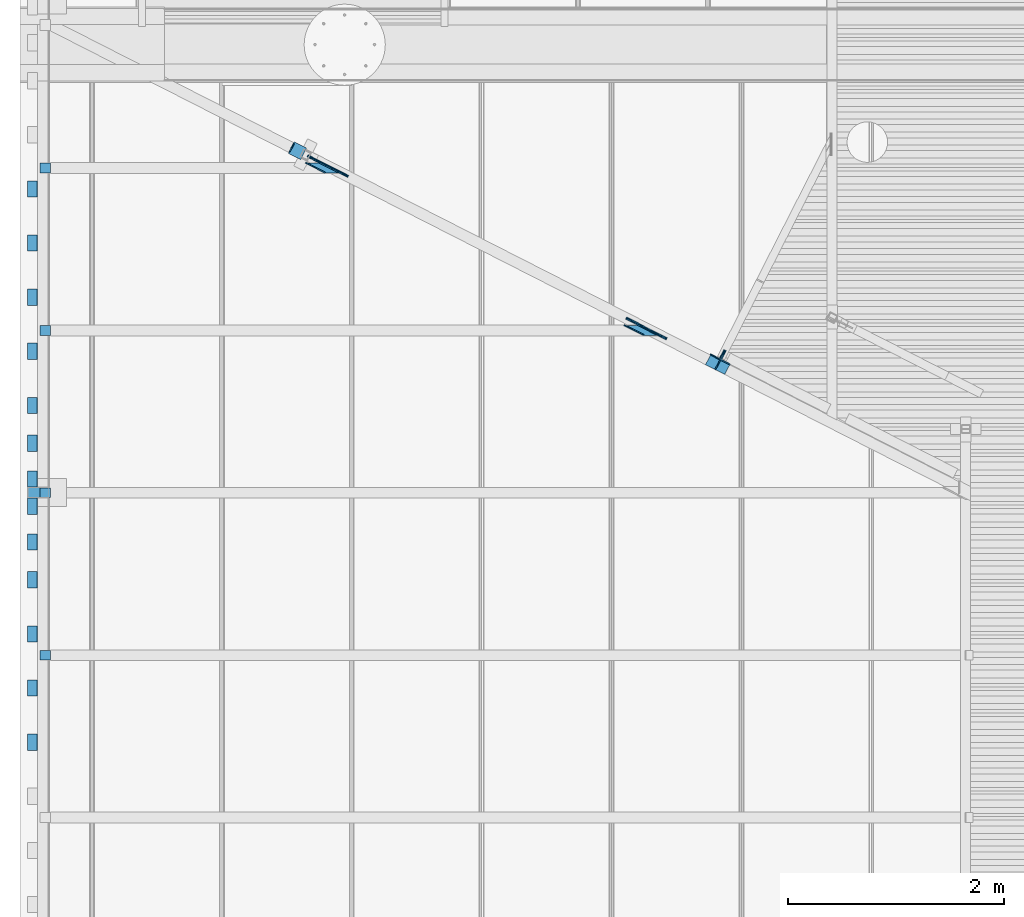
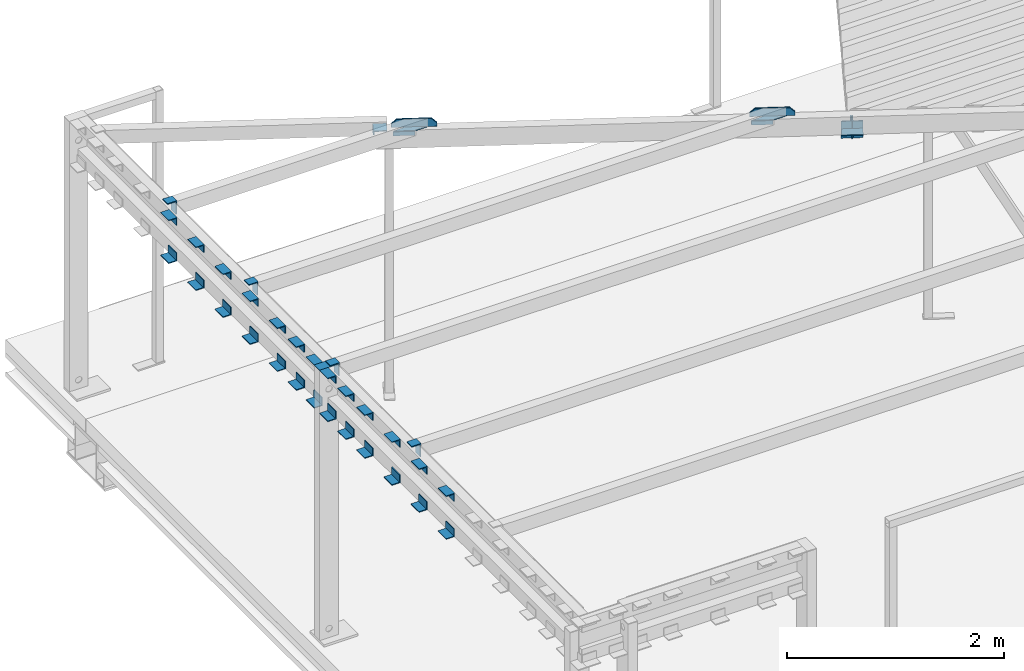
# One storey, part 17 of 30: 45 beams.
"""IFC2X3 building model written with IfcOpenShell, lengths in millimetres."""

from ifc_helpers import new_model, entity, si_unit, converted_unit, derived_unit, direction, frame, origin_with_axes, place, context, subcontext, project, spatial, faceted_brep, material, type_object, element, save


model = new_model("IFC2X3")

# Units and contexts
model_context = context("Model", 3, precision=0.01, world=frame((0.0, 4.29681676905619e-09, 0.0)), true_north=direction((4.01073788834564e-13, 1.0)))
plan_context = context("Plan", 3, precision=0.01, world=frame((0.0, 4.29681676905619e-09, 0.0)), true_north=direction((4.01073788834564e-13, 1.0)))
body_context = subcontext(model_context, "Body", "Model", "MODEL_VIEW")
ifc_project = project(units=[converted_unit("PLANEANGLEUNIT", "DEGREE", entity("IfcPositiveLengthMeasure", 0.0174532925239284), si_unit("PLANEANGLEUNIT", "RADIAN"), dimensions=[0, 0, 0, 0, 0, 0, 0]), si_unit("AREAUNIT", "SQUARE_METRE"), si_unit("LENGTHUNIT", "METRE", prefix="MILLI"), si_unit("MASSUNIT", "GRAM", prefix="KILO"), si_unit("POWERUNIT", "WATT"), si_unit("PRESSUREUNIT", "PASCAL"), si_unit("FORCEUNIT", "NEWTON", prefix="KILO"), si_unit("ELECTRICVOLTAGEUNIT", "VOLT"), si_unit("ELECTRICCURRENTUNIT", "AMPERE"), si_unit("THERMODYNAMICTEMPERATUREUNIT", "DEGREE_CELSIUS"), si_unit("TIMEUNIT", "SECOND"), si_unit("VOLUMEUNIT", "CUBIC_METRE"), derived_unit("LINEARVELOCITYUNIT", [(si_unit("LENGTHUNIT", "METRE"), 1), (si_unit("TIMEUNIT", "SECOND"), -1)]), derived_unit("VOLUMETRICFLOWRATEUNIT", [(si_unit("VOLUMEUNIT", "CUBIC_METRE"), 1), (si_unit("TIMEUNIT", "SECOND"), -1)]), derived_unit("THERMALTRANSMITTANCEUNIT", [(si_unit("POWERUNIT", "WATT"), 1), (si_unit("THERMODYNAMICTEMPERATUREUNIT", "KELVIN"), -1), (si_unit("AREAUNIT", "SQUARE_METRE"), -1)]), derived_unit("SOUNDPRESSUREUNIT", [(si_unit("PRESSUREUNIT", "PASCAL"), 1)])], contexts=[model_context, plan_context])

# Site, building, storey
site_placement = place(None, frame((0.0, -4.29681676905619e-09, 0.0), z_axis=(0.0, 0.0, 1.0), x_axis=(1.0, 0.0, 0.0)))
site = spatial("IfcSite", under=ifc_project, at=site_placement, Name="Gardermoen", CompositionType="ELEMENT")
building_placement = place(site_placement, frame((0.0, 4.29681676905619e-09, 0.0), z_axis=(0.0, 0.0, 1.0), x_axis=(1.0, 0.0, 0.0)))
building = spatial("IfcBuilding", under=site, at=building_placement, Name="TI", CompositionType="ELEMENT")
storey_placement = place(building_placement, origin_with_axes())
storey = spatial("IfcBuildingStorey", under=building, at=storey_placement, Name="F", CompositionType="ELEMENT", Elevation=0.0)

# Beams
ifc_material_1 = material(Name="STEEL/S355")
beam_type_1 = type_object("IfcBeamType", Name="PL8*100", PredefinedType="NOTDEFINED")
beam_1_placement = place(storey_placement, frame((598269.997607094, 693912.002606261, 213891.000686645), z_axis=(-5.80000057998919e-08, -0.999999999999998, 0.0), x_axis=(-0.999999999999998, 5.80000057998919e-08, 0.0)))
element("IfcBeam", 1, at=beam_1_placement, inside=storey, type_object=beam_type_1, material=ifc_material_1, Name="STÅLBJELKE", ObjectType="PL8*100", context=body_context, shape_type="Brep", body=[
    faceted_brep([(-5.82076609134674e-11, -3.99999999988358, 0.0), (3.95812094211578e-09, -3.99999999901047, 100.000000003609), (4.30736690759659e-09, 4.00000000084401, 100.000000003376), (-5.82076609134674e-11, 4.00000000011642, -5.82076609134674e-11), (199.999999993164, -4.0, 99.9999999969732), (199.999999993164, 4.0, 99.9999999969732), (200.0, -4.0, -1.97906047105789e-09), (200.0, 4.00000000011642, -1.62981450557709e-09)], [[[0, 1, 2, 3]], [[1, 4, 5, 2]], [[4, 6, 7, 5]], [[6, 0, 3, 7]], [[5, 7, 3, 2]], [[6, 4, 1, 0]]]),
])
beam_type_2 = type_object("IfcBeamType", Name="PL10*120", PredefinedType="NOTDEFINED")
beam_2_placement = place(storey_placement, frame((600525.795877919, 697089.294883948, 213804.999645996), z_axis=(0.891022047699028, -0.453960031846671, 0.0), x_axis=(-0.453960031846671, -0.891022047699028, 0.0)))
element("IfcBeam", 2, at=beam_2_placement, inside=storey, type_object=beam_type_2, material=ifc_material_1, Name="STÅLBJELKE", ObjectType="PL10*120", context=body_context, shape_type="Brep", body=[
    faceted_brep([(0.0, -5.0, 0.0), (-16.2980422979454, -5.0, 0.00264510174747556), (-16.2980422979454, 5.0, 0.00264510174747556), (0.0, 5.0, 0.0), (-16.2918949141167, -5.0, 128.615921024), (-16.2918949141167, 5.0, 128.615921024), (103.706039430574, -5.0, 128.611785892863), (103.706039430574, 5.0, 128.611785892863), (103.701271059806, -5.0, -3.95812094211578e-09), (103.701271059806, 5.0, -3.95812094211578e-09)], [[[0, 1, 2, 3]], [[1, 4, 5, 2]], [[4, 6, 7, 5]], [[6, 8, 9, 7]], [[8, 0, 3, 9]], [[5, 7, 9, 3, 2]], [[8, 6, 4, 1, 0]]]),
])
beam_type_3 = type_object("IfcBeamType", Name="L100*10", PredefinedType="NOTDEFINED")
beam_3_placement = place(storey_placement, frame((604355.897931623, 695088.582401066, 213549.995250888), z_axis=(-0.453943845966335, -0.891030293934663, -1.63563523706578e-10), x_axis=(0.891030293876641, -0.453943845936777, 1.14119999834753e-05)))
element("IfcBeam", 3, at=beam_3_placement, inside=storey, type_object=beam_type_3, material=ifc_material_1, Name="STÅLBJELKE", ObjectType="L100*10", context=body_context, shape_type="Brep", body=[
    faceted_brep([(0.0, 50.0, -50.0), (0.0, 50.0, 50.0), (200.000000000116, 50.0, 50.0), (200.000000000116, 50.0, -50.0), (-9.31322574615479e-10, 40.0000000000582, 50.0000000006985), (200.000000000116, 40.0, 50.0), (0.0, 40.0, -40.0), (200.000000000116, 40.0, -40.0), (9.89530235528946e-10, -50.0000000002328, -40.0000000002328), (200.000000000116, -50.0, -40.0), (0.0, -50.0, -50.0), (200.000000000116, -50.0, -50.0)], [[[0, 1, 2, 3]], [[1, 4, 5, 2]], [[4, 6, 7, 5]], [[6, 8, 9, 7]], [[8, 10, 11, 9]], [[10, 0, 3, 11]], [[5, 7, 9, 11, 3, 2]], [[10, 8, 6, 4, 1, 0]]]),
])
beam_4_placement = place(storey_placement, frame((604443.707537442, 695156.079949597, 213499.997528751), z_axis=(0.453943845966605, 0.891030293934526, 0.0), x_axis=(0.0, 0.0, 1.0)))
element("IfcBeam", 4, at=beam_4_placement, inside=storey, type_object=beam_type_3, material=ifc_material_1, Name="STÅLBJELKE", ObjectType="L100*10", context=body_context, shape_type="Brep", body=[
    faceted_brep([(76.9011411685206, 39.9999999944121, -39.9999999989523), (76.9011415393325, 49.9999999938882, -40.0000255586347), (0.0, 50.0, -40.0), (0.0, 40.0, -40.0), (76.9011411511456, 39.9999999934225, 49.9999744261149), (76.9011415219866, 49.9999999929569, 49.9999999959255), (183.102282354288, 39.9999999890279, -40.000000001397), (183.102282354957, 39.9999999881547, 49.9999999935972), (76.9011378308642, -50.0000000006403, -40.0), (9.89530235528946e-10, -50.0000000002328, -40.0000000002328), (0.0, -50.0, -50.0), (183.102282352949, -50.0000000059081, -50.0000000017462), (183.102282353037, -50.0000000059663, -40.0000000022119), (0.0, 50.0, -50.0), (183.102282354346, 49.9999999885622, -50.0000000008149), (183.102282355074, 49.9999999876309, 49.9999999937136)], [[[0, 1, 2, 3]], [[4, 5, 1, 0]], [[6, 7, 4, 0]], [[8, 9, 10, 11, 12]], [[10, 13, 14, 11]], [[7, 6, 12, 11, 14, 15]], [[0, 3, 9, 8, 12, 6]], [[13, 10, 9, 3, 2]], [[15, 14, 13, 2, 1, 5]], [[7, 15, 5, 4]]]),
])
beam_5_placement = place(storey_placement, frame((604537.087509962, 695108.506607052, 213683.099811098), z_axis=(0.453943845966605, 0.891030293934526, 0.0), x_axis=(0.0, 0.0, -1.0)))
element("IfcBeam", 5, at=beam_5_placement, inside=storey, type_object=beam_type_3, material=ifc_material_1, Name="STÅLBJELKE", ObjectType="L100*10", context=body_context, shape_type="Brep", body=[
    faceted_brep([(106.201141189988, 40.0000000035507, 49.9999999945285), (106.201141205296, 40.0000000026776, -40.0000000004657), (106.201140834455, 50.0000000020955, -40.0000000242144), (106.201140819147, 50.0000000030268, 49.9999999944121), (183.102282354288, 39.9999999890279, -40.000000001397), (183.102282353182, 50.0000000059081, -40.0000000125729), (0.0, -50.0, -50.0), (9.89530235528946e-10, -50.0000000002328, -40.0000000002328), (0.0, 40.0, -40.0), (-9.31322574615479e-10, 40.0000000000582, 50.0000000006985), (0.0, 50.0, 50.0), (0.0, 50.0, -50.0), (183.102282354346, 49.9999999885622, -50.0000000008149), (183.102282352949, -50.0000000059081, -50.0000000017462), (106.201144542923, -49.9999999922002, -39.9999999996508), (183.102282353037, -50.0000000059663, -40.0000000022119)], [[[0, 1, 2, 3]], [[4, 5, 2, 1]], [[6, 7, 8, 9, 10, 11]], [[6, 11, 12, 13]], [[14, 7, 6, 13, 15]], [[1, 8, 7, 14, 15, 4]], [[9, 8, 1, 0]], [[10, 9, 0, 3]], [[12, 11, 10, 3, 2, 5]], [[15, 13, 12, 5, 4]]]),
])
ifc_material_2 = material(Name="STEEL/S355J0")
beam_type_4 = type_object("IfcBeamType", Name="PL10*90", PredefinedType="NOTDEFINED")
beam_6_placement = place(storey_placement, frame((604463.156600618, 695078.833146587, 213499.995250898), z_axis=(-0.453943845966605, -0.891030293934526, -1.63567739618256e-10), x_axis=(-1.01680000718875e-05, 5.18000063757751e-06, 0.99999999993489)))
element("IfcBeam", 6, at=beam_6_placement, inside=storey, type_object=beam_type_4, material=ifc_material_2, Name="STÅLBJELKE", ObjectType="PL10*90", context=body_context, shape_type="Brep", body=[
    faceted_brep([(0.0, -5.0, 0.0), (2.91038304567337e-11, -5.00000000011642, 15.0), (2.91038304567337e-11, 5.0, 15.0), (0.0, 5.0, 0.0), (74.9999999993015, -5.00000000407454, 89.9999999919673), (74.9999999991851, 4.99999999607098, 89.9999999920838), (89.999999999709, -5.00000000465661, 89.9999999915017), (89.9999999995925, 4.99999999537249, 89.9999999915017), (90.0000000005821, -5.00000000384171, 11.9999999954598), (90.0000000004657, 4.9999999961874, 11.9999999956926), (89.591109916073, -5.00000000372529, 8.89417145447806), (89.5911099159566, 4.99999999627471, 8.89417145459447), (88.3923048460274, -5.00000000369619, 5.99999999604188), (88.392304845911, 4.99999999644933, 5.99999999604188), (86.4852813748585, -5.00000000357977, 3.51471862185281), (86.485281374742, 4.99999999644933, 3.51471862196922), (84.0000000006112, -5.00000000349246, 1.60769515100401), (84.0000000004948, 4.99999999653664, 1.60769515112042), (81.1058285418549, -5.00000000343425, 0.408890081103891), (81.1058285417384, 4.99999999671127, 0.408890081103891), (78.0000000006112, -5.00000000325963, -3.25962901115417e-09), (78.0000000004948, 4.99999999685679, -3.25962901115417e-09)], [[[0, 1, 2, 3]], [[1, 4, 5, 2]], [[4, 6, 7, 5]], [[6, 8, 9, 7]], [[8, 10, 11, 9]], [[10, 12, 13, 11]], [[12, 14, 15, 13]], [[14, 16, 17, 15]], [[16, 18, 19, 17]], [[18, 20, 21, 19]], [[20, 0, 3, 21]], [[5, 7, 9, 11, 13, 15, 17, 19, 21, 3, 2]], [[20, 18, 16, 14, 12, 10, 8, 6, 4, 1, 0]]]),
])
for number, where, z_axis, x_axis in (
    (7, (600639.584852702, 696903.702939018, 213804.999645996), (0.453993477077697, 0.891005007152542, 0.0), (0.891005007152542, -0.453993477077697, 0.0)),
    (8, (603583.504852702, 695403.702939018, 213804.999645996), (0.453993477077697, 0.891005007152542, 0.0), (0.891005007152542, -0.453993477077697, 0.0)),
):
    element("IfcBeam", number, at=place(storey_placement, frame(where, z_axis=z_axis, x_axis=x_axis)), inside=storey, type_object=beam_type_4, material=ifc_material_1, Name="STÅLBJELKE", ObjectType="PL10*90", context=body_context, shape_type="Brep", body=[
        faceted_brep([(0.0, -5.0, 0.0), (-0.587417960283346, -5.0, 1.15752243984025), (-0.587417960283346, 5.0, 1.15752243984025), (0.0, 5.0, 0.0), (114.900810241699, -5.0, 59.9968948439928), (114.900810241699, 5.0, 59.9968948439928), (313.128387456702, -5.0, 59.9925079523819), (313.128387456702, 5.0, 59.9925079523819), (195.38989258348, -5.0, 9.66247171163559e-09), (195.38989258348, 5.0, 9.66247171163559e-09)], [[[0, 1, 2, 3]], [[1, 4, 5, 2]], [[4, 6, 7, 5]], [[6, 8, 9, 7]], [[8, 0, 3, 9]], [[5, 7, 9, 3, 2]], [[8, 6, 4, 1, 0]]]),
    ])
beam_type_5 = type_object("IfcBeamType", Name="L90*9", PredefinedType="NOTDEFINED")
for number, where, z_axis, x_axis in (
    (9, (598114.998348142, 693331.002304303, 213449.999618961), (-0.999999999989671, -4.54499979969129e-06, 0.0), (-4.54499979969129e-06, 0.999999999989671, -1.52795109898e-11)),
    (10, (598114.998348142, 693331.002304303, 213849.999618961), (9.05696637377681e-17, -1.5279510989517e-11, -1.0), (-5.9275237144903e-06, 0.999999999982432, -1.52795109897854e-11)),
    (11, (598114.998348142, 692981.002304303, 213449.999618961), (-0.999999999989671, -4.54499979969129e-06, 0.0), (-4.54499979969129e-06, 0.999999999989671, -1.52795109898e-11)),
    (12, (598114.998348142, 692981.002304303, 213849.999618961), (9.05696637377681e-17, -1.5279510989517e-11, -1.0), (-5.9275237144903e-06, 0.999999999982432, -1.52795109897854e-11)),
    (13, (598114.998348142, 692481.002304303, 213449.999618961), (-0.999999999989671, -4.54499979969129e-06, 0.0), (-4.54499979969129e-06, 0.999999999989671, -1.52795109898e-11)),
    (14, (598114.998348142, 692481.002304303, 213849.999618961), (9.05696637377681e-17, -1.5279510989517e-11, -1.0), (-5.9275237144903e-06, 0.999999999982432, -1.52795109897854e-11)),
    (15, (598114.998348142, 691981.002304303, 213449.999618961), (-0.999999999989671, -4.54499979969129e-06, 0.0), (-4.54499979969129e-06, 0.999999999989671, -1.52795109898e-11)),
    (16, (598114.998348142, 691981.002304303, 213849.999618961), (9.05696637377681e-17, -1.5279510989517e-11, -1.0), (-5.9275237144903e-06, 0.999999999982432, -1.52795109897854e-11)),
    (17, (598114.998348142, 696593.002304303, 213449.999618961), (-0.999999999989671, -4.54499979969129e-06, 0.0), (-4.54499979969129e-06, 0.999999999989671, -1.52795109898e-11)),
    (18, (598114.998348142, 696593.002304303, 213849.999618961), (9.05696637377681e-17, -1.5279510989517e-11, -1.0), (-5.9275237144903e-06, 0.999999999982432, -1.52795109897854e-11)),
    (19, (598114.998348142, 694243.002304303, 213449.999618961), (-0.999999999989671, -4.54499979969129e-06, 0.0), (-4.54499979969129e-06, 0.999999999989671, -1.52795109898e-11)),
    (20, (598114.998348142, 694243.002304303, 213849.999618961), (9.05696637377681e-17, -1.5279510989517e-11, -1.0), (-5.9275237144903e-06, 0.999999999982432, -1.52795109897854e-11)),
    (21, (598114.998348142, 694593.002304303, 213449.999618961), (-0.999999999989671, -4.54499979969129e-06, 0.0), (-4.54499979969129e-06, 0.999999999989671, -1.52795109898e-11)),
    (22, (598114.998348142, 694593.002304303, 213849.999618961), (9.05696637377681e-17, -1.5279510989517e-11, -1.0), (-5.9275237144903e-06, 0.999999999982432, -1.52795109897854e-11)),
    (23, (598114.998348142, 695093.002304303, 213449.999618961), (-0.999999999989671, -4.54499979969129e-06, 0.0), (-4.54499979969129e-06, 0.999999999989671, -1.52795109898e-11)),
    (24, (598114.998348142, 695093.002304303, 213849.999618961), (9.05696637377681e-17, -1.5279510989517e-11, -1.0), (-5.9275237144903e-06, 0.999999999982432, -1.52795109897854e-11)),
    (25, (598114.998348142, 695593.002304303, 213449.999618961), (-0.999999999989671, -4.54499979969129e-06, 0.0), (-4.54499979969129e-06, 0.999999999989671, -1.52795109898e-11)),
    (26, (598114.998348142, 695593.002304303, 213849.999618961), (9.05696637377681e-17, -1.5279510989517e-11, -1.0), (-5.9275237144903e-06, 0.999999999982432, -1.52795109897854e-11)),
    (27, (598114.998348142, 696093.002304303, 213449.999618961), (-0.999999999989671, -4.54499979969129e-06, 0.0), (-4.54499979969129e-06, 0.999999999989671, -1.52795109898e-11)),
    (28, (598114.998348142, 696093.002304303, 213849.999618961), (9.05696637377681e-17, -1.5279510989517e-11, -1.0), (-5.9275237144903e-06, 0.999999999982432, -1.52795109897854e-11)),
    (29, (598114.998348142, 693912.002304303, 213449.999618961), (-0.999999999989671, -4.54499979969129e-06, 0.0), (-4.54499979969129e-06, 0.999999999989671, -1.52795109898e-11)),
    (30, (598114.998348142, 693912.002304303, 213849.999618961), (9.05696637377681e-17, -1.5279510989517e-11, -1.0), (-5.9275237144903e-06, 0.999999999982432, -1.52795109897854e-11)),
    (31, (598114.998348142, 693662.002304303, 213449.999618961), (-0.999999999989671, -4.54499979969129e-06, 0.0), (-4.54499979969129e-06, 0.999999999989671, -1.52795109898e-11)),
    (32, (598114.998348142, 693662.002304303, 213849.999618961), (9.05696637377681e-17, -1.5279510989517e-11, -1.0), (-5.9275237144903e-06, 0.999999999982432, -1.52795109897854e-11)),
    (33, (598114.998348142, 691481.002304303, 213449.999618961), (-0.999999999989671, -4.54499979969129e-06, 0.0), (-4.54499979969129e-06, 0.999999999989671, -1.52795109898e-11)),
    (34, (598114.998348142, 691481.002304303, 213849.999618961), (9.05696637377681e-17, -1.5279510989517e-11, -1.0), (-5.9275237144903e-06, 0.999999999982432, -1.52795109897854e-11)),
):
    element("IfcBeam", number, at=place(storey_placement, frame(where, z_axis=z_axis, x_axis=x_axis)), inside=storey, type_object=beam_type_5, material=ifc_material_1, Name="STÅLBJELKE", ObjectType="L90*9", context=body_context, shape_type="Brep", body=[
        faceted_brep([(0.0, 45.0, -45.0), (0.0, 45.0, 45.0), (149.99878331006, 45.0, 45.0000000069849), (149.998783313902, 45.0, -44.9999999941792), (8.14907252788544e-10, 36.0, 44.9999999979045), (149.99878331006, 36.0, 45.0000000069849), (-4.65661287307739e-10, 36.0, -35.9999999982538), (149.998783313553, 36.0, -35.9999999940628), (-4.65661287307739e-10, -45.0, -35.9999999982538), (149.998783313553, -45.0, -35.9999999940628), (0.0, -45.0, -45.0), (149.998783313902, -45.0, -44.9999999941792)], [[[0, 1, 2, 3]], [[1, 4, 5, 2]], [[4, 6, 7, 5]], [[6, 8, 9, 7]], [[8, 10, 11, 9]], [[10, 0, 3, 11]], [[5, 7, 9, 11, 3, 2]], [[10, 8, 6, 4, 1, 0]]]),
    ])
beam_type_6 = type_object("IfcBeamType", Name="L150*100*10", PredefinedType="NOTDEFINED")
for number, where, z_axis, x_axis in (
    (35, (598233.99836542, 696815.002110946, 213829.999618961), (0.0, 0.0, -1.0), (-8.11000009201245e-06, 0.999999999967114, 0.0)),
    (36, (598233.998347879, 695315.002110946, 213829.999618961), (0.0, 0.0, -1.0), (-8.11000009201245e-06, 0.999999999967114, 0.0)),
    (37, (598233.998348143, 693815.002110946, 213829.999618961), (0.0, 0.0, -1.0), (-8.11000009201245e-06, 0.999999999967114, 0.0)),
    (38, (598233.998348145, 692315.002110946, 213829.999618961), (0.0, 0.0, -1.0), (-8.11000009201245e-06, 0.999999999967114, 0.0)),
):
    element("IfcBeam", number, at=place(storey_placement, frame(where, z_axis=z_axis, x_axis=x_axis)), inside=storey, type_object=beam_type_6, material=ifc_material_1, Name="STÅLBJELKE", ObjectType="L150*100*10", context=body_context, shape_type="Brep", body=[
        faceted_brep([(0.0, 50.0, -75.0), (0.0, 50.0, 75.0), (89.9987833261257, 49.9999999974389, 75.0), (89.9987833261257, 49.9999999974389, -75.0), (-5.82076609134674e-10, 40.0000000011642, 75.0), (89.99878332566, 39.9999999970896, 75.0), (1.28056854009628e-09, 40.0, -64.9999999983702), (89.99878332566, 39.9999999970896, -65.0), (1.28056854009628e-09, -50.0, -64.9999999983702), (89.9987833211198, -50.00000000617, -65.0), (0.0, -50.0, -75.0), (89.9987833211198, -50.00000000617, -75.0)], [[[0, 1, 2, 3]], [[1, 4, 5, 2]], [[4, 6, 7, 5]], [[6, 8, 9, 7]], [[8, 10, 11, 9]], [[10, 0, 3, 11]], [[5, 7, 9, 11, 3, 2]], [[10, 8, 6, 4, 1, 0]]]),
    ])
beam_type_7 = type_object("IfcBeamType", Name="PL10*45", PredefinedType="NOTDEFINED")
beam_7_placement = place(storey_placement, frame((600530.841361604, 697088.176430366, 213754.999620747), z_axis=(3.17807382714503e-09, 6.23700800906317e-09, 1.0), x_axis=(-0.454008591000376, -0.890997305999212, 7.00003015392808e-09)))
element("IfcBeam", 39, at=beam_7_placement, inside=storey, type_object=beam_type_7, material=ifc_material_1, Name="STÅLBJELKE", ObjectType="PL10*45", context=body_context, shape_type="Brep", body=[
    faceted_brep([(0.0, -5.0, 0.0), (3.50293703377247e-07, -5.00000000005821, 44.9996490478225), (3.50526534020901e-07, 4.99999999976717, 44.9996490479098), (0.0, 5.0, 0.0), (90.0011291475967, -5.00000000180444, 44.9975547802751), (90.0011291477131, 4.99999999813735, 44.9975547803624), (90.0011291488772, -5.00000000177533, -5.5297277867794e-10), (90.0011291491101, 4.99999999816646, -4.65661287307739e-10)], [[[0, 1, 2, 3]], [[1, 4, 5, 2]], [[4, 6, 7, 5]], [[6, 0, 3, 7]], [[5, 7, 3, 2]], [[6, 4, 1, 0]]]),
])
for number, where, z_axis, x_axis in (
    (40, (600816.846553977, 696818.996399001, 213754.999620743), (2.67299855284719e-09, -1.36209943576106e-09, 1.0), (-0.890987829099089, 0.454027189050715, 3.00003935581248e-09)),
    (41, (603760.766553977, 695318.996399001, 213754.999620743), (2.67299855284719e-09, -1.36209943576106e-09, 1.0), (-0.890987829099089, 0.454027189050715, 3.00003935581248e-09)),
):
    element("IfcBeam", number, at=place(storey_placement, frame(where, z_axis=z_axis, x_axis=x_axis)), inside=storey, type_object=beam_type_7, material=ifc_material_1, Name="STÅLBJELKE", ObjectType="PL10*45", context=body_context, shape_type="Brep", body=[
        faceted_brep([(0.0, -5.0, 0.0), (3.50293703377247e-07, -5.00000000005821, 44.9996490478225), (3.50526534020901e-07, 4.99999999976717, 44.9996490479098), (0.0, 5.0, 0.0), (200.251129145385, -5.0000000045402, 44.9975547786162), (200.251129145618, 4.99999999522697, 44.997554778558), (200.251129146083, -5.00000000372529, 1.28056854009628e-08), (200.251129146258, 4.99999999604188, 1.27474777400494e-08)], [[[0, 1, 2, 3]], [[1, 4, 5, 2]], [[4, 6, 7, 5]], [[6, 0, 3, 7]], [[5, 7, 3, 2]], [[6, 4, 1, 0]]]),
    ])
beam_type_8 = type_object("IfcBeamType", Name="PL10*95", PredefinedType="NOTDEFINED")
for number, where, z_axis, x_axis in (
    (42, (601033.376540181, 696787.216406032, 213799.999620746), (1.78196198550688e-09, -9.08040459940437e-10, 1.0), (-0.890989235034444, 0.454024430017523, 1.99998149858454e-09)),
    (43, (603977.296540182, 695287.216406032, 213799.999620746), (1.78196198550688e-09, -9.08040459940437e-10, 1.0), (-0.890989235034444, 0.454024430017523, 1.99998149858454e-09)),
):
    element("IfcBeam", number, at=place(storey_placement, frame(where, z_axis=z_axis, x_axis=x_axis)), inside=storey, type_object=beam_type_8, material=ifc_material_1, Name="STÅLBJELKE", ObjectType="PL10*95", context=body_context, shape_type="Brep", body=[
        faceted_brep([(0.0, -5.0, 0.0), (3.50293703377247e-07, -5.00000000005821, 44.9996490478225), (3.50526534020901e-07, 4.99999999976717, 44.9996490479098), (0.0, 5.0, 0.0), (50.0000001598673, -5.00000000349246, 94.9993994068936), (50.0000001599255, 4.99999999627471, 94.9993994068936), (370.219543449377, -5.00000000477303, 94.9978006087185), (370.219543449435, 4.99999999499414, 94.9978006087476), (420.219543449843, -5.00000000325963, 44.9975509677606), (420.219543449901, 4.99999999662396, 44.9975509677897), (420.219543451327, -5.00000000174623, -9.92440618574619e-09), (420.219543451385, 4.99999999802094, -9.89530235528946e-09)], [[[0, 1, 2, 3]], [[1, 4, 5, 2]], [[4, 6, 7, 5]], [[6, 8, 9, 7]], [[8, 10, 11, 9]], [[10, 0, 3, 11]], [[5, 7, 9, 11, 3, 2]], [[10, 8, 6, 4, 1, 0]]]),
    ])
beam_type_9 = type_object("IfcBeamType", Name="PL10*87", PredefinedType="NOTDEFINED")
for number, where, z_axis, x_axis in (
    (44, (601028.836295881, 696778.30651368, 213807.999620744), (1.78196198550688e-09, -9.08040459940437e-10, 1.0), (-0.890989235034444, 0.454024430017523, 1.99998149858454e-09)),
    (45, (603972.756295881, 695278.30651368, 213807.999620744), (1.78196198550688e-09, -9.08040459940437e-10, 1.0), (-0.890989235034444, 0.454024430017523, 1.99998149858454e-09)),
):
    element("IfcBeam", number, at=place(storey_placement, frame(where, z_axis=z_axis, x_axis=x_axis)), inside=storey, type_object=beam_type_9, material=ifc_material_1, Name="STÅLBJELKE", ObjectType="PL10*87", context=body_context, shape_type="Brep", body=[
        faceted_brep([(0.0, -5.0, 0.0), (3.73693183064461e-08, -5.00000000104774, 36.9996490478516), (3.74275259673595e-08, 4.99999999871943, 36.9996490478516), (0.0, 5.0, 0.0), (50.0000000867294, -5.00000000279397, 86.9993994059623), (50.0000000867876, 4.99999999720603, 86.9993994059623), (370.219543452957, -5.00000000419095, 86.9978006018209), (370.219543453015, 4.99999999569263, 86.9978006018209), (420.219543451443, -5.00000000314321, 36.9975509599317), (420.219543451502, 4.99999999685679, 36.9975509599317), (420.219543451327, -5.00000000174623, -9.92440618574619e-09), (420.219543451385, 4.99999999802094, -9.89530235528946e-09)], [[[0, 1, 2, 3]], [[1, 4, 5, 2]], [[4, 6, 7, 5]], [[6, 8, 9, 7]], [[8, 10, 11, 9]], [[10, 0, 3, 11]], [[5, 7, 9, 11, 3, 2]], [[10, 8, 6, 4, 1, 0]]]),
    ])

save(model, "model.ifc")
